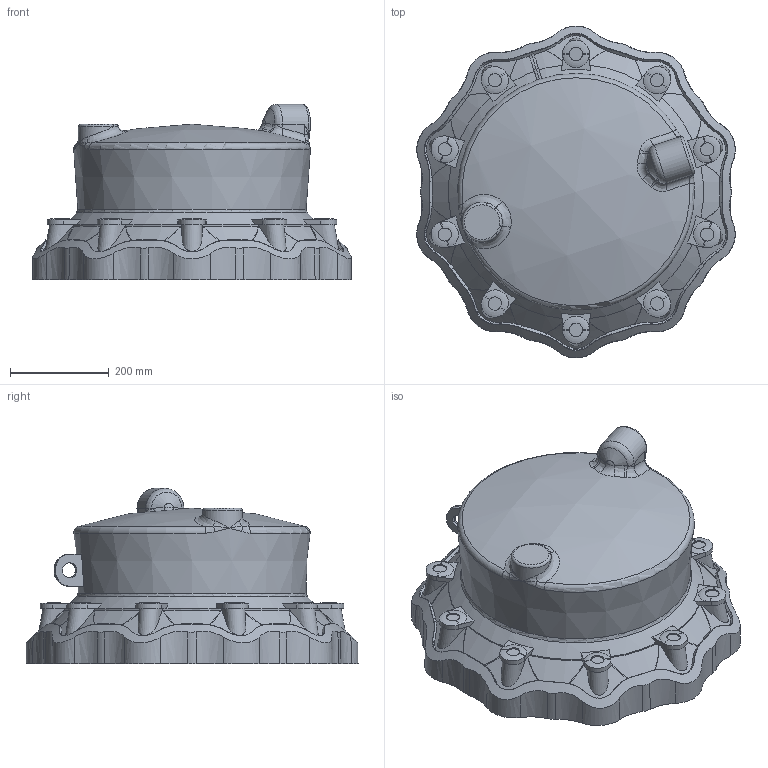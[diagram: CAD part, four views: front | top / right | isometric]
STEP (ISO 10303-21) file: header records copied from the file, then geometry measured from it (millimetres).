
FILE_DESCRIPTION (( 'STEP AP203' ), '1' );
FILE_NAME ('O_634_00_DN400_step.STEP', '2014-12-17T03:18:01', ( '' ), ( '' ), 'SwSTEP 2.0', 'SolidWorks 2012', '' );
FILE_SCHEMA (( 'CONFIG_CONTROL_DESIGN' ));
Length unit declared in the file: millimetre
Products named in the file (1): O_634_00_DN400_step
Bounding box: 646.56 x 673.76 x 356.1 mm (x, y, z)
Volume: 58518637.5 mm3; surface area: 1205190.6 mm2
Topology: 1 solids, 1 shells, 490 faces, 1475 edges, 988 vertices
Faces by surface type: bspline 238, plane 97, cylinder 88, torus 33, cone 30, sphere 4
Entity records: 32567 total; most frequent: CARTESIAN_POINT 21652, ORIENTED_EDGE 2908, EDGE_CURVE 1454, DIRECTION 1396, VERTEX_POINT 981, B_SPLINE_CURVE_WITH_KNOTS 779, AXIS2_PLACEMENT_3D 542, EDGE_LOOP 505
